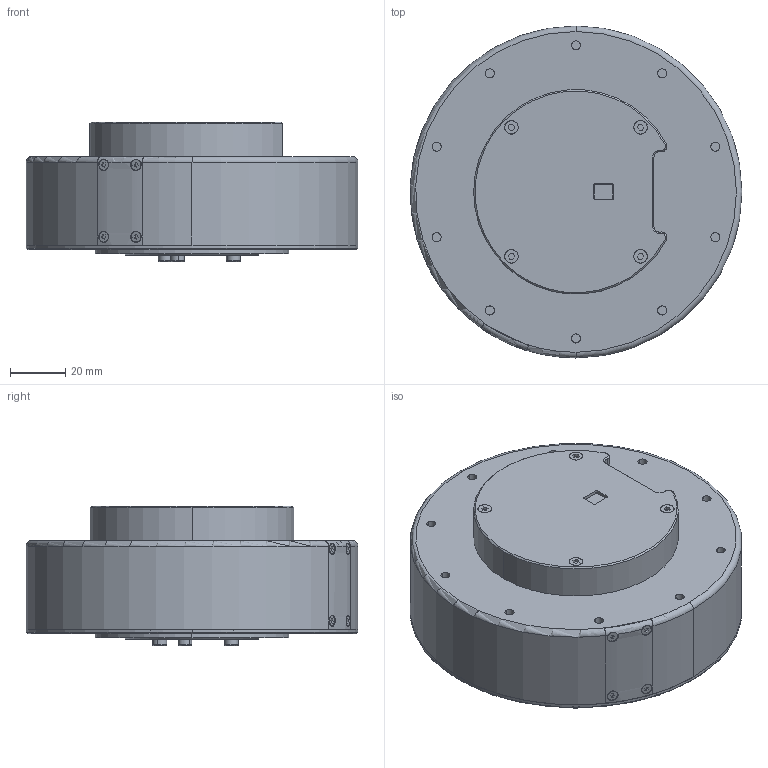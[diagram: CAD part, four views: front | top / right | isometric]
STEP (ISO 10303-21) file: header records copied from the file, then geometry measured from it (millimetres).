
FILE_DESCRIPTION (( 'STEP AP214' ), '1' );
FILE_NAME ('MG10015-i10.STEP', '2022-12-14T03:19:09', ( '' ), ( '' ), 'SwSTEP 2.0', 'SolidWorks 2020', '' );
FILE_SCHEMA (( 'AUTOMOTIVE_DESIGN' ));
Length unit declared in the file: millimetre
Products named in the file (1): MG10015-i10
Bounding box: 120 x 120 x 50.6 mm (x, y, z)
Volume: 359403.2 mm3; surface area: 112645.3 mm2
Topology: 44 solids, 45 shells, 2271 faces, 5874 edges, 3755 vertices
Faces by surface type: plane 1245, cylinder 725, cone 220, bspline 61, torus 20
Entity records: 99001 total; most frequent: CARTESIAN_POINT 16990, DIRECTION 11909, ORIENTED_EDGE 11644, EDGE_CURVE 5822, AXIS2_PLACEMENT_3D 4114, VERTEX_POINT 3755, LINE 3681, VECTOR 3681
